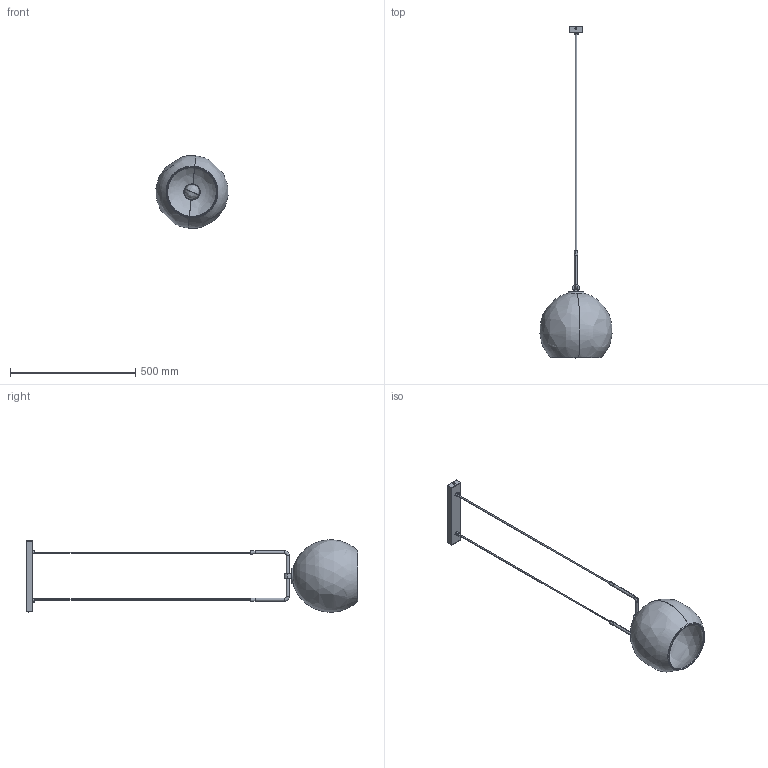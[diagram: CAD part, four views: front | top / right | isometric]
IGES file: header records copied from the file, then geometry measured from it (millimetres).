
Start section: SolidWorks IGES file using analytic representation for surfaces
Global section: file name: E:\3D lampy\Monaco\Monaco_9364\Monaco_9364.IGS; native system: SolidWorks 2017; preprocessor: SolidWorks 2017; author: joanna.pastusinska; date: 180425.144517; units: millimetre
Bounding box: 287.2 x 1322.76 x 288.12 mm (x, y, z)
Surface area: 656623.1 mm2 (no closed solid volume)
Topology: 0 solids, 0 shells, 739 faces, 11015 edges, 10989 vertices
Faces by surface type: bspline 396, revolution 343
